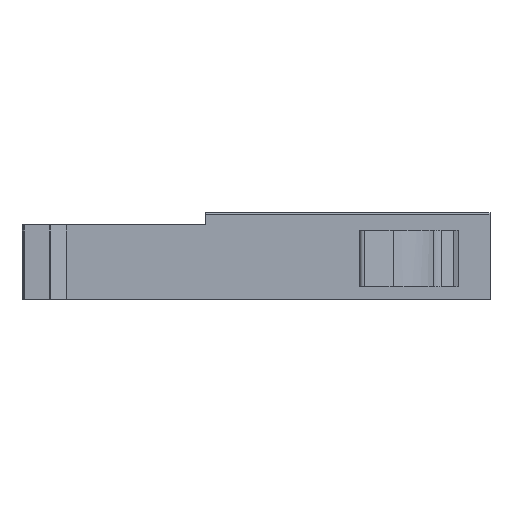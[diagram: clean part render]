
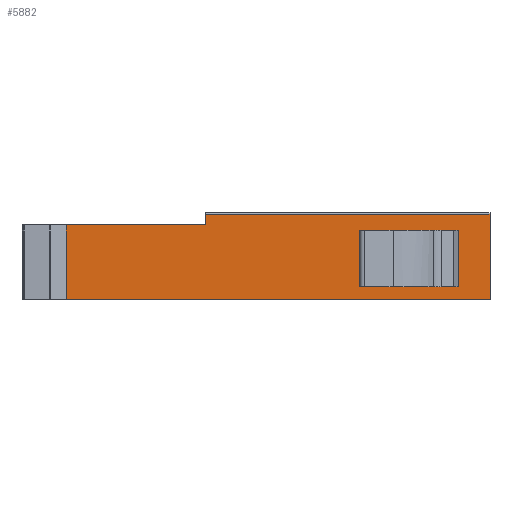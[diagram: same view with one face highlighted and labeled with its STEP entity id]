
A CAD part, left-side view. The second image highlights one B-rep face of the part: STEP entity #5882.
In plain terms, the highlighted planar face has unit normal (-1, 0, 0).
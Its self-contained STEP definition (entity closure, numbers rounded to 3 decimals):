
#5805=AXIS2_PLACEMENT_3D('Plane Axis2P3D',#5802,#5803,#5804) ;
#5775=CARTESIAN_POINT('Line Origine',(-52.5,61.802,0.)) ;
#5779=CARTESIAN_POINT('Vertex',(-52.5,61.802,6.)) ;
#5781=CARTESIAN_POINT('Vertex',(-52.5,61.802,-6.)) ;
#5802=CARTESIAN_POINT('Axis2P3D Location',(-52.5,-6.5,-6.)) ;
#5807=CARTESIAN_POINT('Line Origine',(-52.5,50.601,6.)) ;
#5811=CARTESIAN_POINT('Vertex',(-52.5,39.4,6.)) ;
#5814=CARTESIAN_POINT('Line Origine',(-52.5,27.651,-6.)) ;
#5818=CARTESIAN_POINT('Vertex',(-52.5,-6.5,-6.)) ;
#5821=CARTESIAN_POINT('Line Origine',(-52.5,-6.5,0.85)) ;
#5825=CARTESIAN_POINT('Vertex',(-52.5,-6.5,7.7)) ;
#5828=CARTESIAN_POINT('Line Origine',(-52.5,16.45,7.7)) ;
#5832=CARTESIAN_POINT('Vertex',(-52.5,39.4,7.7)) ;
#5835=CARTESIAN_POINT('Line Origine',(-52.5,39.4,6.85)) ;
#5848=CARTESIAN_POINT('Line Origine',(-52.5,-0.722,-3.95)) ;
#5852=CARTESIAN_POINT('Vertex',(-52.5,-0.051,-3.95)) ;
#5854=CARTESIAN_POINT('Vertex',(-52.5,-1.394,-3.95)) ;
#5857=CARTESIAN_POINT('Line Origine',(-52.5,-0.051,0.6)) ;
#5861=CARTESIAN_POINT('Vertex',(-52.5,-0.051,5.15)) ;
#5864=CARTESIAN_POINT('Line Origine',(-52.5,-0.722,5.15)) ;
#5868=CARTESIAN_POINT('Vertex',(-52.5,-1.394,5.15)) ;
#5871=CARTESIAN_POINT('Line Origine',(-52.5,-1.394,0.6)) ;
#5776=DIRECTION('Vector Direction',(0.,0.,-1.)) ;
#5803=DIRECTION('Axis2P3D Direction',(1.,0.,0.)) ;
#5804=DIRECTION('Axis2P3D XDirection',(0.,1.,0.)) ;
#5808=DIRECTION('Vector Direction',(0.,-1.,0.)) ;
#5815=DIRECTION('Vector Direction',(0.,-1.,0.)) ;
#5822=DIRECTION('Vector Direction',(0.,0.,1.)) ;
#5829=DIRECTION('Vector Direction',(0.,1.,0.)) ;
#5836=DIRECTION('Vector Direction',(0.,0.,-1.)) ;
#5849=DIRECTION('Vector Direction',(0.,-1.,0.)) ;
#5858=DIRECTION('Vector Direction',(0.,0.,-1.)) ;
#5865=DIRECTION('Vector Direction',(0.,-1.,0.)) ;
#5872=DIRECTION('Vector Direction',(0.,0.,1.)) ;
#5777=VECTOR('Line Direction',#5776,1.) ;
#5809=VECTOR('Line Direction',#5808,1.) ;
#5816=VECTOR('Line Direction',#5815,1.) ;
#5823=VECTOR('Line Direction',#5822,1.) ;
#5830=VECTOR('Line Direction',#5829,1.) ;
#5837=VECTOR('Line Direction',#5836,1.) ;
#5850=VECTOR('Line Direction',#5849,1.) ;
#5859=VECTOR('Line Direction',#5858,1.) ;
#5866=VECTOR('Line Direction',#5865,1.) ;
#5873=VECTOR('Line Direction',#5872,1.) ;
#5841=ORIENTED_EDGE('',*,*,#5813,.F.) ;
#5842=ORIENTED_EDGE('',*,*,#5783,.T.) ;
#5843=ORIENTED_EDGE('',*,*,#5820,.T.) ;
#5844=ORIENTED_EDGE('',*,*,#5827,.F.) ;
#5845=ORIENTED_EDGE('',*,*,#5834,.T.) ;
#5846=ORIENTED_EDGE('',*,*,#5839,.T.) ;
#5877=ORIENTED_EDGE('',*,*,#5856,.F.) ;
#5878=ORIENTED_EDGE('',*,*,#5863,.F.) ;
#5879=ORIENTED_EDGE('',*,*,#5870,.T.) ;
#5880=ORIENTED_EDGE('',*,*,#5875,.F.) ;
#5881=FACE_BOUND('',#5876,.T.) ;
#5882=ADVANCED_FACE('PartBody',(#5847,#5881),#5806,.F.) ;
#5783=EDGE_CURVE('',#5780,#5782,#5778,.T.) ;
#5813=EDGE_CURVE('',#5780,#5812,#5810,.T.) ;
#5820=EDGE_CURVE('',#5782,#5819,#5817,.T.) ;
#5827=EDGE_CURVE('',#5826,#5819,#5824,.F.) ;
#5834=EDGE_CURVE('',#5826,#5833,#5831,.T.) ;
#5839=EDGE_CURVE('',#5833,#5812,#5838,.T.) ;
#5856=EDGE_CURVE('',#5853,#5855,#5851,.T.) ;
#5863=EDGE_CURVE('',#5862,#5853,#5860,.T.) ;
#5870=EDGE_CURVE('',#5862,#5869,#5867,.T.) ;
#5875=EDGE_CURVE('',#5855,#5869,#5874,.T.) ;
#5840=EDGE_LOOP('',(#5841,#5842,#5843,#5844,#5845,#5846)) ;
#5876=EDGE_LOOP('',(#5877,#5878,#5879,#5880)) ;
#5847=FACE_OUTER_BOUND('',#5840,.T.) ;
#5778=LINE('Line',#5775,#5777) ;
#5810=LINE('Line',#5807,#5809) ;
#5817=LINE('Line',#5814,#5816) ;
#5824=LINE('Line',#5821,#5823) ;
#5831=LINE('Line',#5828,#5830) ;
#5838=LINE('Line',#5835,#5837) ;
#5851=LINE('Line',#5848,#5850) ;
#5860=LINE('Line',#5857,#5859) ;
#5867=LINE('Line',#5864,#5866) ;
#5874=LINE('Line',#5871,#5873) ;
#5806=PLANE('',#5805) ;
#5780=VERTEX_POINT('',#5779) ;
#5782=VERTEX_POINT('',#5781) ;
#5812=VERTEX_POINT('',#5811) ;
#5819=VERTEX_POINT('',#5818) ;
#5826=VERTEX_POINT('',#5825) ;
#5833=VERTEX_POINT('',#5832) ;
#5853=VERTEX_POINT('',#5852) ;
#5855=VERTEX_POINT('',#5854) ;
#5862=VERTEX_POINT('',#5861) ;
#5869=VERTEX_POINT('',#5868) ;
